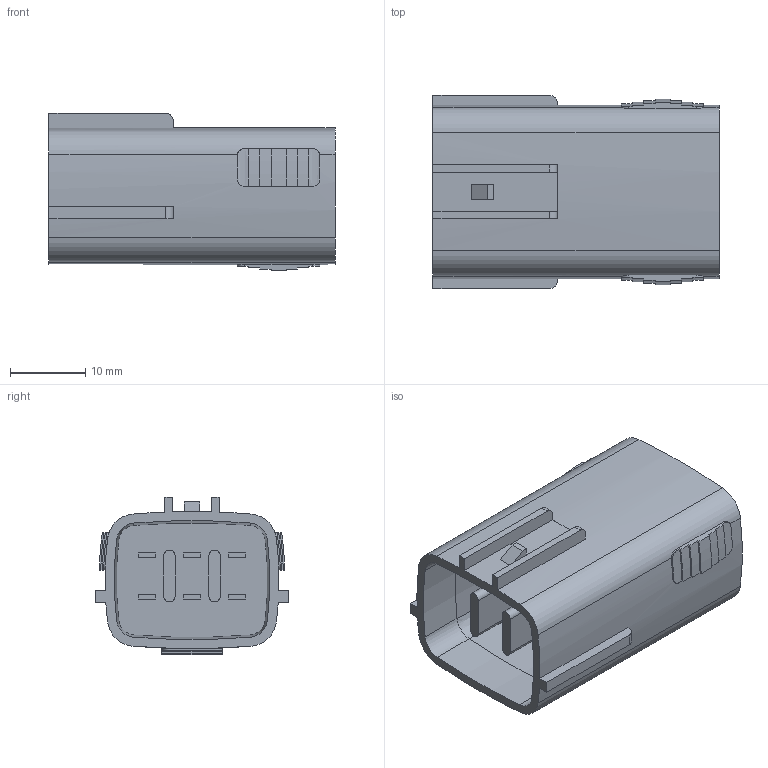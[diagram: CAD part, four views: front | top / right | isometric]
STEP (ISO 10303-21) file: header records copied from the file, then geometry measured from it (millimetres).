
FILE_DESCRIPTION(('CATIA V5 STEP Exchange','CAx-IF Rec.Pracs.--- Model Styling and Organization---1.2---2011-12-15'),'2;1');
FILE_NAME('N:\C-DAM_MyDesk\ENV\900093\6195-0024.stp','2015-06-23T07:25:35+00:00',('none'),('none'),'CATIA Version 5-6 Release 2012 SP4 HF74','CATIA V5 STEP AP214','none');
FILE_SCHEMA(('AUTOMOTIVE_DESIGN { 1 0 10303 214 1 1 1 1 }'));
Length unit declared in the file: millimetre
Products named in the file (1): 6195-0024
Bounding box: 38 x 25.7 x 20.9 mm (x, y, z)
Volume: 11027 mm3; surface area: 5299.5 mm2
Topology: 1 solids, 1 shells, 174 faces, 456 edges, 301 vertices
Faces by surface type: plane 104, cylinder 60, cone 8, bspline 2
Entity records: 5102 total; most frequent: CARTESIAN_POINT 1051, ORIENTED_EDGE 912, DIRECTION 670, EDGE_CURVE 456, VECTOR 307, LINE 307, VERTEX_POINT 301, AXIS2_PLACEMENT_3D 243
